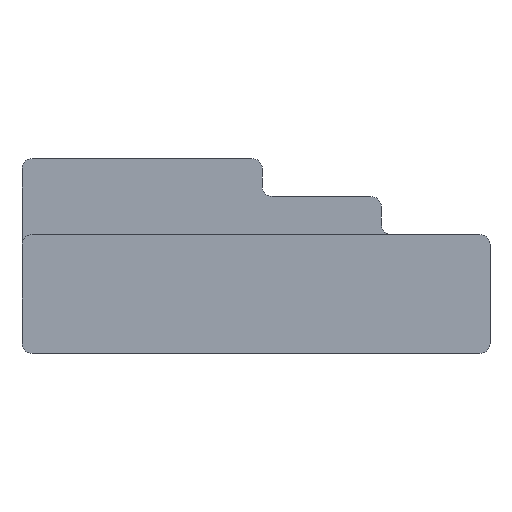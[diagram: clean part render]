
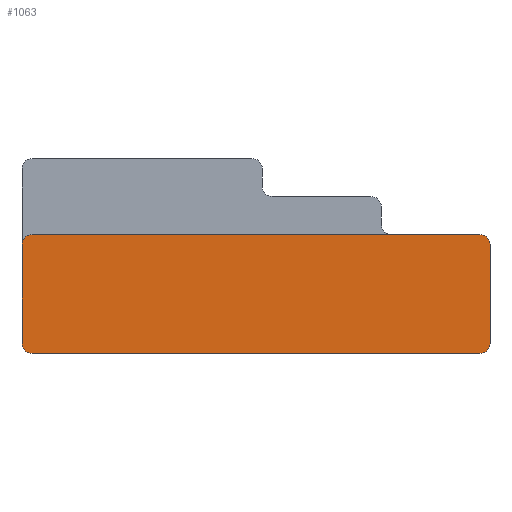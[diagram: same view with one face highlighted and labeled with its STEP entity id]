
A CAD part, front view. The second image highlights one B-rep face of the part: STEP entity #1063.
In plain terms, the highlighted planar face has unit normal (0, -1, 0).
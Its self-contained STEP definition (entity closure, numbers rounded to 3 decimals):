
#190=CARTESIAN_POINT('',(-10.9,-11.6,5.3));
#191=DIRECTION('',(0.,-1.,0.));
#192=DIRECTION('',(0.,0.,1.));
#193=AXIS2_PLACEMENT_3D('',#190,#191,#192);
#195=CARTESIAN_POINT('',(10.9,-11.6,5.3));
#196=DIRECTION('',(0.,-1.,0.));
#197=DIRECTION('',(1.,0.,0.));
#198=AXIS2_PLACEMENT_3D('',#195,#196,#197);
#200=CARTESIAN_POINT('',(10.9,-11.6,0.5));
#201=DIRECTION('',(0.,-1.,0.));
#202=DIRECTION('',(0.,0.,-1.));
#203=AXIS2_PLACEMENT_3D('',#200,#201,#202);
#205=CARTESIAN_POINT('',(-10.9,-11.6,0.5));
#206=DIRECTION('',(0.,-1.,0.));
#207=DIRECTION('',(-1.,0.,0.));
#208=AXIS2_PLACEMENT_3D('',#205,#206,#207);
#210=DIRECTION('',(0.,0.,1.));
#211=VECTOR('',#210,4.8);
#212=CARTESIAN_POINT('',(-11.4,-11.6,0.5));
#213=LINE('',#212,#211);
#298=DIRECTION('',(1.,0.,0.));
#299=VECTOR('',#298,21.8);
#300=CARTESIAN_POINT('',(-10.9,-11.6,5.8));
#301=LINE('',#300,#299);
#490=DIRECTION('',(1.,0.,0.));
#491=VECTOR('',#490,21.8);
#492=CARTESIAN_POINT('',(-10.9,-11.6,0.));
#493=LINE('',#492,#491);
#560=DIRECTION('',(0.,0.,1.));
#561=VECTOR('',#560,4.8);
#562=CARTESIAN_POINT('',(11.4,-11.6,0.5));
#563=LINE('',#562,#561);
#688=CARTESIAN_POINT('',(-10.9,-11.6,5.8));
#689=CARTESIAN_POINT('',(-11.4,-11.6,5.3));
#690=VERTEX_POINT('',#688);
#691=VERTEX_POINT('',#689);
#716=CARTESIAN_POINT('',(11.4,-11.6,5.3));
#717=VERTEX_POINT('',#716);
#718=CARTESIAN_POINT('',(10.9,-11.6,5.8));
#719=VERTEX_POINT('',#718);
#720=CARTESIAN_POINT('',(10.9,-11.6,0.));
#721=CARTESIAN_POINT('',(11.4,-11.6,0.5));
#722=VERTEX_POINT('',#720);
#723=VERTEX_POINT('',#721);
#732=CARTESIAN_POINT('',(-11.4,-11.6,0.5));
#733=VERTEX_POINT('',#732);
#734=CARTESIAN_POINT('',(-10.9,-11.6,0.));
#735=VERTEX_POINT('',#734);
#1041=CARTESIAN_POINT('',(-11.4,-11.6,0.));
#1042=DIRECTION('',(0.,-1.,0.));
#1043=DIRECTION('',(1.,0.,0.));
#1044=AXIS2_PLACEMENT_3D('',#1041,#1042,#1043);
#1045=PLANE('',#1044);
#1047=ORIENTED_EDGE('',*,*,#1046,.F.);
#1049=ORIENTED_EDGE('',*,*,#1048,.T.);
#1051=ORIENTED_EDGE('',*,*,#1050,.F.);
#1053=ORIENTED_EDGE('',*,*,#1052,.F.);
#1054=ORIENTED_EDGE('',*,*,#1031,.F.);
#1056=ORIENTED_EDGE('',*,*,#1055,.F.);
#1058=ORIENTED_EDGE('',*,*,#1057,.F.);
#1060=ORIENTED_EDGE('',*,*,#1059,.T.);
#1061=EDGE_LOOP('',(#1047,#1049,#1051,#1053,#1054,#1056,#1058,#1060));
#1062=FACE_OUTER_BOUND('',#1061,.F.);
#1063=ADVANCED_FACE('',(#1062),#1045,.T.);
#194=CIRCLE('',#193,0.5);
#199=CIRCLE('',#198,0.5);
#204=CIRCLE('',#203,0.5);
#209=CIRCLE('',#208,0.5);
#1031=EDGE_CURVE('',#722,#723,#204,.T.);
#1046=EDGE_CURVE('',#690,#691,#194,.T.);
#1048=EDGE_CURVE('',#690,#719,#301,.T.);
#1050=EDGE_CURVE('',#717,#719,#199,.T.);
#1052=EDGE_CURVE('',#723,#717,#563,.T.);
#1055=EDGE_CURVE('',#735,#722,#493,.T.);
#1057=EDGE_CURVE('',#733,#735,#209,.T.);
#1059=EDGE_CURVE('',#733,#691,#213,.T.);
